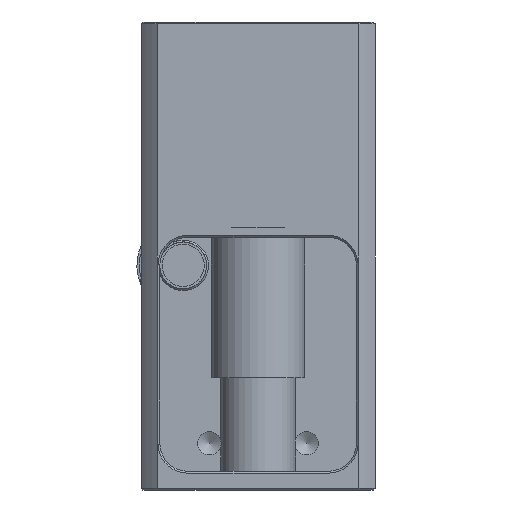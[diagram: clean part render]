
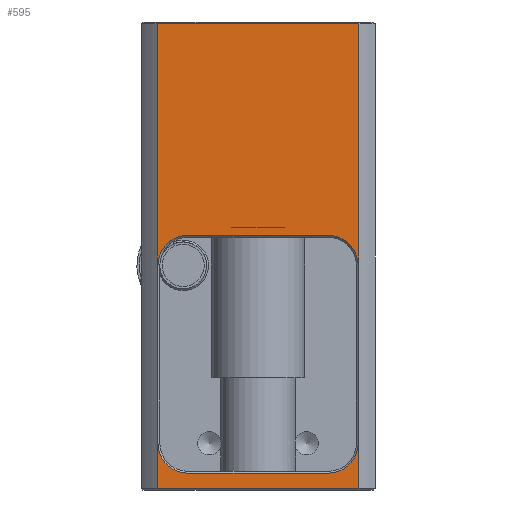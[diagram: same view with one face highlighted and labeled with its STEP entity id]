
A CAD part, left-side view. The second image highlights one B-rep face of the part: STEP entity #595.
In plain terms, the highlighted planar face has unit normal (-1, 0, 0).
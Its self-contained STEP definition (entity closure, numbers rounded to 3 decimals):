
#23 = DIRECTION ( 'NONE',  ( 1., 0., 0. ) ) ;
#92 = CARTESIAN_POINT ( 'NONE',  ( -13.611, 26.366, 980. ) ) ;
#107 = CARTESIAN_POINT ( 'NONE',  ( -13.611, 4.896, 1025. ) ) ;
#154 = DIRECTION ( 'NONE',  ( 1., 0., 0. ) ) ;
#183 = EDGE_CURVE ( 'NONE', #1189, #3870, #3177, .T. ) ;
#184 = VERTEX_POINT ( 'NONE', #507 ) ;
#190 = DIRECTION ( 'NONE',  ( 0., 0., -1. ) ) ;
#210 = VERTEX_POINT ( 'NONE', #3900 ) ;
#231 = VERTEX_POINT ( 'NONE', #2918 ) ;
#258 = ORIENTED_EDGE ( 'NONE', *, *, #347, .T. ) ;
#347 = EDGE_CURVE ( 'NONE', #355, #231, #3921, .T. ) ;
#355 = VERTEX_POINT ( 'NONE', #1652 ) ;
#390 = DIRECTION ( 'NONE',  ( 0., 0., -1. ) ) ;
#392 = CARTESIAN_POINT ( 'NONE',  ( -13.611, 15.666, 1002.2 ) ) ;
#418 = VECTOR ( 'NONE', #659, 1000. ) ;
#472 = LINE ( 'NONE', #4062, #2036 ) ;
#492 = DIRECTION ( 'NONE',  ( 0., 0., -1. ) ) ;
#507 = CARTESIAN_POINT ( 'NONE',  ( -13.611, 23.166, 976.8 ) ) ;
#544 = VERTEX_POINT ( 'NONE', #92 ) ;
#595 = ADVANCED_FACE ( 'NONE', ( #3015, #1075 ), #1396, .F. ) ;
#659 = DIRECTION ( 'NONE',  ( 0., -1., 0. ) ) ;
#690 = EDGE_CURVE ( 'NONE', #231, #875, #4043, .T. ) ;
#732 = CARTESIAN_POINT ( 'NONE',  ( -13.611, 26.437, 1025. ) ) ;
#757 = CARTESIAN_POINT ( 'NONE',  ( -13.611, 15.666, 1025. ) ) ;
#875 = VERTEX_POINT ( 'NONE', #997 ) ;
#892 = DIRECTION ( 'NONE',  ( 1., 0., 0. ) ) ;
#904 = VECTOR ( 'NONE', #4222, 1000. ) ;
#929 = CIRCLE ( 'NONE', #3098, 3.2 ) ;
#968 = EDGE_LOOP ( 'NONE', ( #2533, #1455, #2576, #2111 ) ) ;
#997 = CARTESIAN_POINT ( 'NONE',  ( -13.611, 8.166, 976.8 ) ) ;
#1072 = DIRECTION ( 'NONE',  ( 0., 0., 1. ) ) ;
#1075 = FACE_OUTER_BOUND ( 'NONE', #968, .T. ) ;
#1098 = ORIENTED_EDGE ( 'NONE', *, *, #690, .T. ) ;
#1150 = CARTESIAN_POINT ( 'NONE',  ( -13.611, 23.166, 999. ) ) ;
#1172 = EDGE_LOOP ( 'NONE', ( #258, #1098, #2507, #3632, #1847, #2127, #4016, #3765 ) ) ;
#1189 = VERTEX_POINT ( 'NONE', #2543 ) ;
#1276 = EDGE_CURVE ( 'NONE', #1673, #355, #929, .T. ) ;
#1344 = CARTESIAN_POINT ( 'NONE',  ( -13.611, 4.966, 1025. ) ) ;
#1364 = AXIS2_PLACEMENT_3D ( 'NONE', #757, #154, #3355 ) ;
#1391 = LINE ( 'NONE', #732, #2930 ) ;
#1396 = PLANE ( 'NONE',  #1364 ) ;
#1455 = ORIENTED_EDGE ( 'NONE', *, *, #3521, .T. ) ;
#1512 = EDGE_CURVE ( 'NONE', #3870, #1673, #2010, .T. ) ;
#1628 = VERTEX_POINT ( 'NONE', #3351 ) ;
#1630 = EDGE_CURVE ( 'NONE', #2333, #1628, #3032, .T. ) ;
#1652 = CARTESIAN_POINT ( 'NONE',  ( -13.611, 4.966, 999. ) ) ;
#1665 = DIRECTION ( 'NONE',  ( 0., 0., -1. ) ) ;
#1673 = VERTEX_POINT ( 'NONE', #4125 ) ;
#1706 = DIRECTION ( 'NONE',  ( 0., -1., 0. ) ) ;
#1712 = VERTEX_POINT ( 'NONE', #3142 ) ;
#1847 = ORIENTED_EDGE ( 'NONE', *, *, #3478, .T. ) ;
#1901 = LINE ( 'NONE', #2360, #904 ) ;
#1929 = CARTESIAN_POINT ( 'NONE',  ( -13.611, 15.666, 1024.8 ) ) ;
#1980 = CARTESIAN_POINT ( 'NONE',  ( -13.611, 15.666, 975.2 ) ) ;
#2010 = LINE ( 'NONE', #392, #2827 ) ;
#2019 = VECTOR ( 'NONE', #1665, 1000. ) ;
#2036 = VECTOR ( 'NONE', #2438, 1000. ) ;
#2111 = ORIENTED_EDGE ( 'NONE', *, *, #2443, .T. ) ;
#2127 = ORIENTED_EDGE ( 'NONE', *, *, #183, .T. ) ;
#2217 = AXIS2_PLACEMENT_3D ( 'NONE', #3420, #892, #492 ) ;
#2333 = VERTEX_POINT ( 'NONE', #3225 ) ;
#2357 = EDGE_CURVE ( 'NONE', #875, #184, #1901, .T. ) ;
#2360 = CARTESIAN_POINT ( 'NONE',  ( -13.611, 15.666, 976.8 ) ) ;
#2438 = DIRECTION ( 'NONE',  ( 0., 0., 1. ) ) ;
#2443 = EDGE_CURVE ( 'NONE', #1712, #1628, #3575, .T. ) ;
#2450 = DIRECTION ( 'NONE',  ( 1., 0., 0. ) ) ;
#2507 = ORIENTED_EDGE ( 'NONE', *, *, #2357, .T. ) ;
#2533 = ORIENTED_EDGE ( 'NONE', *, *, #1630, .F. ) ;
#2543 = CARTESIAN_POINT ( 'NONE',  ( -13.611, 26.366, 999. ) ) ;
#2565 = AXIS2_PLACEMENT_3D ( 'NONE', #1150, #2450, #190 ) ;
#2576 = ORIENTED_EDGE ( 'NONE', *, *, #3706, .F. ) ;
#2589 = LINE ( 'NONE', #1929, #3058 ) ;
#2610 = CARTESIAN_POINT ( 'NONE',  ( -13.611, 23.166, 980. ) ) ;
#2827 = VECTOR ( 'NONE', #1706, 1000. ) ;
#2870 = CIRCLE ( 'NONE', #3543, 3.2 ) ;
#2887 = DIRECTION ( 'NONE',  ( 1., 0., 0. ) ) ;
#2918 = CARTESIAN_POINT ( 'NONE',  ( -13.611, 4.966, 980. ) ) ;
#2930 = VECTOR ( 'NONE', #1072, 1000. ) ;
#3015 = FACE_BOUND ( 'NONE', #1172, .T. ) ;
#3032 = LINE ( 'NONE', #107, #2019 ) ;
#3058 = VECTOR ( 'NONE', #3234, 1000. ) ;
#3098 = AXIS2_PLACEMENT_3D ( 'NONE', #3185, #2887, #3905 ) ;
#3142 = CARTESIAN_POINT ( 'NONE',  ( -13.611, 26.437, 975.2 ) ) ;
#3177 = CIRCLE ( 'NONE', #2565, 3.2 ) ;
#3185 = CARTESIAN_POINT ( 'NONE',  ( -13.611, 8.166, 999. ) ) ;
#3225 = CARTESIAN_POINT ( 'NONE',  ( -13.611, 4.896, 1024.8 ) ) ;
#3234 = DIRECTION ( 'NONE',  ( 0., 1., 0. ) ) ;
#3351 = CARTESIAN_POINT ( 'NONE',  ( -13.611, 4.896, 975.2 ) ) ;
#3355 = DIRECTION ( 'NONE',  ( 0., 0., -1. ) ) ;
#3420 = CARTESIAN_POINT ( 'NONE',  ( -13.611, 8.166, 980. ) ) ;
#3478 = EDGE_CURVE ( 'NONE', #544, #1189, #472, .T. ) ;
#3521 = EDGE_CURVE ( 'NONE', #2333, #210, #2589, .T. ) ;
#3543 = AXIS2_PLACEMENT_3D ( 'NONE', #2610, #23, #390 ) ;
#3575 = LINE ( 'NONE', #1980, #418 ) ;
#3632 = ORIENTED_EDGE ( 'NONE', *, *, #3708, .T. ) ;
#3706 = EDGE_CURVE ( 'NONE', #1712, #210, #1391, .T. ) ;
#3708 = EDGE_CURVE ( 'NONE', #184, #544, #2870, .T. ) ;
#3765 = ORIENTED_EDGE ( 'NONE', *, *, #1276, .T. ) ;
#3870 = VERTEX_POINT ( 'NONE', #4101 ) ;
#3900 = CARTESIAN_POINT ( 'NONE',  ( -13.611, 26.437, 1024.8 ) ) ;
#3905 = DIRECTION ( 'NONE',  ( 0., 0., -1. ) ) ;
#3921 = LINE ( 'NONE', #1344, #4053 ) ;
#4013 = DIRECTION ( 'NONE',  ( 0., 0., -1. ) ) ;
#4016 = ORIENTED_EDGE ( 'NONE', *, *, #1512, .T. ) ;
#4043 = CIRCLE ( 'NONE', #2217, 3.2 ) ;
#4053 = VECTOR ( 'NONE', #4013, 1000. ) ;
#4062 = CARTESIAN_POINT ( 'NONE',  ( -13.611, 26.366, 1025. ) ) ;
#4101 = CARTESIAN_POINT ( 'NONE',  ( -13.611, 23.166, 1002.2 ) ) ;
#4125 = CARTESIAN_POINT ( 'NONE',  ( -13.611, 8.166, 1002.2 ) ) ;
#4222 = DIRECTION ( 'NONE',  ( 0., 1., 0. ) ) ;
